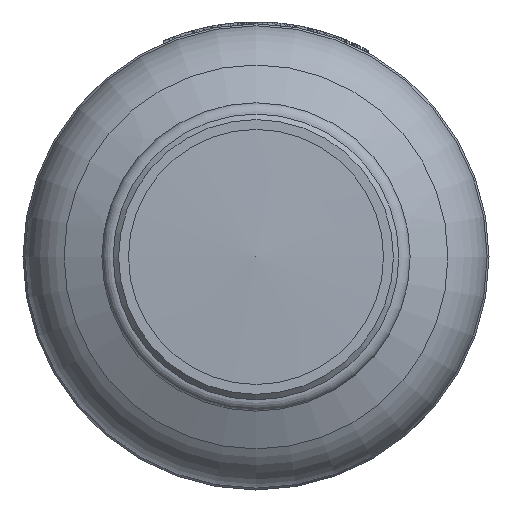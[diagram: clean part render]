
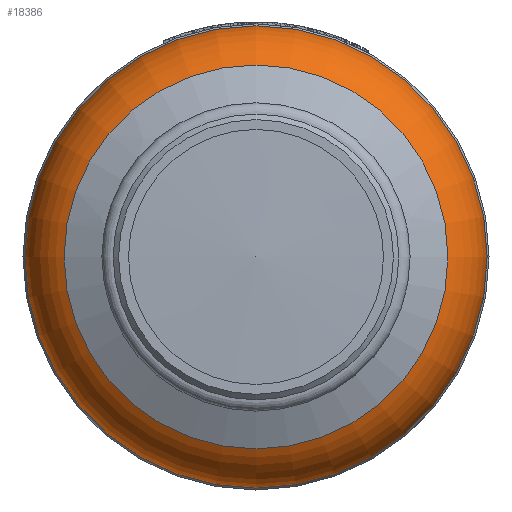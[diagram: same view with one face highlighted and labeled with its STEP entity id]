
A CAD part, front view. The second image highlights one B-rep face of the part: STEP entity #18386.
In plain terms, the highlighted toroidal (fillet/blend) face has major radius 41 mm and minor radius 20 mm.
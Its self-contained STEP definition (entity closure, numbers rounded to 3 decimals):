
#28=TOROIDAL_SURFACE('',#19731,41.,20.);
#126=FACE_BOUND('',#3510,.T.);
#2403=FACE_OUTER_BOUND('',#3509,.T.);
#3509=EDGE_LOOP('',(#17280));
#3510=EDGE_LOOP('',(#17281));
#7221=CIRCLE('',#19730,61.);
#7222=CIRCLE('',#19732,50.647);
#9057=VERTEX_POINT('',#39397);
#9058=VERTEX_POINT('',#39400);
#11801=EDGE_CURVE('',#9057,#9057,#7221,.T.);
#11802=EDGE_CURVE('',#9058,#9058,#7222,.T.);
#17280=ORIENTED_EDGE('',*,*,#11802,.F.);
#17281=ORIENTED_EDGE('',*,*,#11801,.T.);
#18386=ADVANCED_FACE('',(#2403,#126),#28,.T.);
#19730=AXIS2_PLACEMENT_3D('',#39398,#23736,#23737);
#19731=AXIS2_PLACEMENT_3D('',#39399,#23738,#23739);
#19732=AXIS2_PLACEMENT_3D('',#39401,#23740,#23741);
#23736=DIRECTION('center_axis',(0.,-1.,0.));
#23737=DIRECTION('ref_axis',(1.,0.,0.));
#23738=DIRECTION('center_axis',(0.,-1.,0.));
#23739=DIRECTION('ref_axis',(0.,0.,1.));
#23740=DIRECTION('center_axis',(0.,-1.,0.));
#23741=DIRECTION('ref_axis',(1.,0.,0.));
#39397=CARTESIAN_POINT('',(61.,-151.458,0.));
#39398=CARTESIAN_POINT('Origin',(0.,-151.458,
0.));
#39399=CARTESIAN_POINT('Origin',(0.,-151.458,
0.));
#39400=CARTESIAN_POINT('',(50.647,-168.978,0.));
#39401=CARTESIAN_POINT('Origin',(0.,-168.978,
0.));
